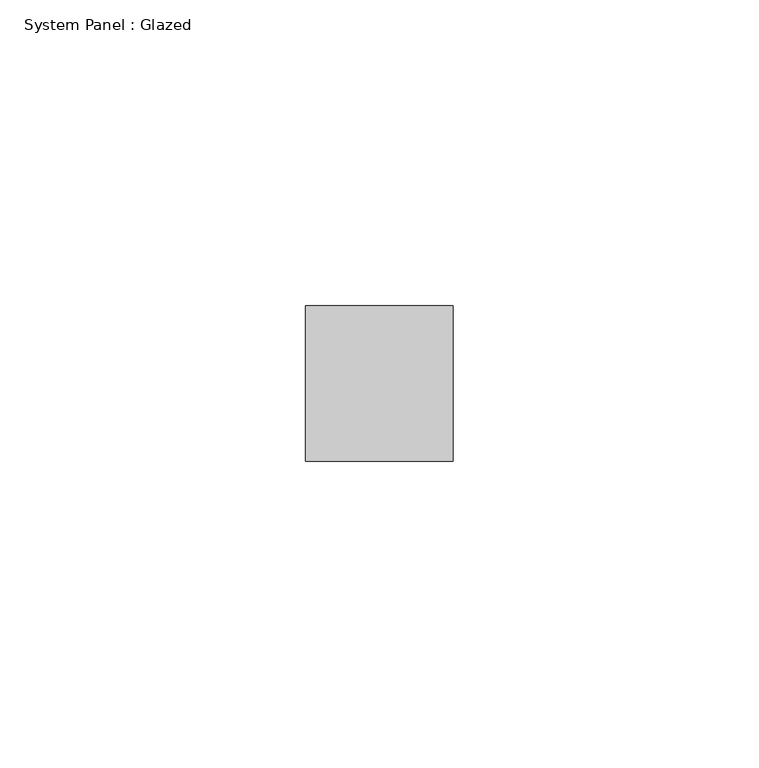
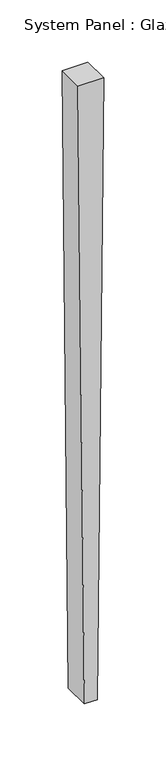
"""IFC4 building model written with IfcOpenShell, lengths in millimetres: plate geometry, System Panel : Glazed."""

import ifcopenshell
import ifcopenshell.guid

model = None  # the IFC model being written
_history = None  # IfcOwnerHistory: only IFC2X3 demands one
_inside = {}  # id of a spatial element -> (the spatial element, [elements in it])
_under = {}  # id of a project, library or spatial element -> (it, [spatial elements below it])
_declared = {}  # id of a project -> (the project, [libraries it declares])
_typed = {}  # id of a type object -> (the type object, [elements of that type])
_made_of = {}  # id of a material, layer set ... -> (it, [elements and type objects made of it])


def new_model(schema):
    """Start an empty IFC model of exactly this schema.

    Asked for "IFC4X3", IfcOpenShell would pick the latest addendum, in which some entities
    have other attributes; the version numbers below select the first issue.
    IFC2X3 requires an IfcOwnerHistory on every rooted entity: one is made here for all.
    """
    global model, _history
    if schema == "IFC4X3":
        model = ifcopenshell.file(schema_version=(4, 3, 0, 0))
    else:
        model = ifcopenshell.file(schema=schema)
    _inside.clear()
    _under.clear()
    _declared.clear()
    _typed.clear()
    _made_of.clear()
    _history = None
    if model.schema == "IFC2X3":
        org = make("IfcOrganization", Name="unknown")
        user = make(
            "IfcPersonAndOrganization",
            ThePerson=make("IfcPerson", FamilyName="unknown"),
            TheOrganization=org,
        )
        app = make(
            "IfcApplication",
            ApplicationDeveloper=org,
            Version="unknown",
            ApplicationFullName="unknown",
            ApplicationIdentifier="unknown",
        )
        _history = make(
            "IfcOwnerHistory",
            OwningUser=user,
            OwningApplication=app,
            ChangeAction="ADDED",
            CreationDate=0,
        )
    return model


def make(cls, **values):
    """One entity of the class cls with the attributes given. An attribute that is None is left unset."""
    return model.create_entity(
        cls, **{name: value for name, value in values.items() if value is not None}
    )


def rooted(cls, **values):
    """An entity with a GlobalId (a new one), such as an element, a storey or a relation."""
    return make(cls, GlobalId=ifcopenshell.guid.new(), OwnerHistory=_history, **values)


def si_unit(unit_type, name, prefix=None):
    """IfcSIUnit, for example si_unit("LENGTHUNIT", "METRE", prefix="MILLI")."""
    return make("IfcSIUnit", UnitType=unit_type, Prefix=prefix, Name=name)


def assignment(units):
    """IfcUnitAssignment: the units of a project."""
    return None if units is None else make("IfcUnitAssignment", Units=units)


def point(xyz):
    """IfcCartesianPoint."""
    return None if xyz is None else make("IfcCartesianPoint", Coordinates=xyz)


def direction(xyz):
    """IfcDirection."""
    return None if xyz is None else make("IfcDirection", DirectionRatios=xyz)


def frame(location, z_axis=None, x_axis=None):
    """IfcAxis2Placement3D, a coordinate frame: its origin and axes. An axis left out is left unset."""
    return make(
        "IfcAxis2Placement3D",
        Location=point(location),
        Axis=direction(z_axis),
        RefDirection=direction(x_axis),
    )


def origin():
    """The frame at (0, 0, 0) with its axes left unset."""
    return frame((0.0, 0.0, 0.0))


def place(relative_to, where):
    """IfcLocalPlacement: puts the frame where relative to a parent placement (None: the world)."""
    return make(
        "IfcLocalPlacement", PlacementRelTo=relative_to, RelativePlacement=where
    )


def context(
    kind, dimensions, precision=None, world=None, true_north=None, identifier=None
):
    """IfcGeometricRepresentationContext, for example the 3D "Model" context."""
    return make(
        "IfcGeometricRepresentationContext",
        ContextIdentifier=identifier,
        ContextType=kind,
        CoordinateSpaceDimension=dimensions,
        Precision=precision,
        WorldCoordinateSystem=world,
        TrueNorth=true_north,
    )


def project(units=None, contexts=None):
    """IfcProject with its units and contexts."""
    return rooted(
        "IfcProject",
        Name="project",
        RepresentationContexts=contexts,
        UnitsInContext=assignment(units),
    )


def spatial(cls, under=None, at=None, **own):
    """A site, building, storey or space (cls), placed at a placement, below another one or the project."""
    s = rooted(cls, ObjectPlacement=at, **own)
    if under is not None:
        _under.setdefault(under.id(), (under, []))[1].append(s)
    return s


def polyline(points):
    """IfcPolyline through the points."""
    return make("IfcPolyline", Points=[point(p) for p in points])


def outline(outer, holes=None, kind="AREA"):
    """IfcArbitraryClosedProfileDef: a profile drawn as a closed curve; with holes, ...WithVoids."""
    if holes is None:
        return make("IfcArbitraryClosedProfileDef", ProfileType=kind, OuterCurve=outer)
    return make(
        "IfcArbitraryProfileDefWithVoids",
        ProfileType=kind,
        OuterCurve=outer,
        InnerCurves=holes,
    )


def extrude(swept, where, along, depth):
    """IfcExtrudedAreaSolid: the profile swept, set in the frame where, extruded along a direction by depth."""
    return make(
        "IfcExtrudedAreaSolid",
        SweptArea=swept,
        Position=where,
        ExtrudedDirection=direction(along),
        Depth=depth,
    )


def shape(context_of_items, identifier, shape_type, items):
    """IfcShapeRepresentation: the items that make up one representation, for example the "Body"."""
    return make(
        "IfcShapeRepresentation",
        ContextOfItems=context_of_items,
        RepresentationIdentifier=identifier,
        RepresentationType=shape_type,
        Items=items,
    )


def source(mapping_origin, context_of_items, identifier, shape_type, items):
    """IfcRepresentationMap: a shape defined once, which mapped items show again and again."""
    return make(
        "IfcRepresentationMap",
        MappingOrigin=mapping_origin,
        MappedRepresentation=shape(context_of_items, identifier, shape_type, items),
    )


def transform(
    local_origin,
    x_axis=None,
    y_axis=None,
    z_axis=None,
    scale=None,
    scale2=None,
    scale3=None,
    uniform=True,
):
    """IfcCartesianTransformationOperator3D, or its non-uniform kind. x_axis, y_axis, z_axis: its Axis1, 2, 3."""
    if uniform:
        return make(
            "IfcCartesianTransformationOperator3D",
            Axis1=direction(x_axis),
            Axis2=direction(y_axis),
            LocalOrigin=point(local_origin),
            Scale=scale,
            Axis3=direction(z_axis),
        )
    return make(
        "IfcCartesianTransformationOperator3DnonUniform",
        Axis1=direction(x_axis),
        Axis2=direction(y_axis),
        LocalOrigin=point(local_origin),
        Scale=scale,
        Axis3=direction(z_axis),
        Scale2=scale2,
        Scale3=scale3,
    )


def mapped(mapping_source, mapping_target):
    """IfcMappedItem: shows the shape of a source again, moved by a transform."""
    return make(
        "IfcMappedItem", MappingSource=mapping_source, MappingTarget=mapping_target
    )


def made_of(thing, what):
    """Note that an element or type object is made of a material, layer set ...; save() writes the relation."""
    if what is not None:
        _made_of.setdefault(what.id(), (what, []))[1].append(thing)
    return thing


def element(
    cls,
    number,
    at=None,
    inside=None,
    cuts=None,
    type_object=None,
    material=None,
    context=None,
    identifier="Body",
    shape_type=None,
    held_by="IfcProductDefinitionShape",
    body=None,
    shapes=None,
    **own,
):
    """One element of the class cls, such as IfcWall. Its Tag is "e" and its number.

    at: its placement. inside: the storey or other place that contains it. cuts: it is an
    opening in that element (IfcRelVoidsElement). A single representation is given by context,
    identifier, shape_type and body (its items); several are given by shapes. held_by: the class
    of the entity that holds the representations. save() writes the other relations.
    """
    e = rooted(cls, Tag="e%d" % number, ObjectPlacement=at, **own)
    if body is not None:
        shapes = [shape(context, identifier, shape_type, body)]
    if shapes is not None:
        e.Representation = make(held_by, Representations=shapes)
    if inside is not None:
        _inside.setdefault(inside.id(), (inside, []))[1].append(e)
    if cuts is not None:
        rooted(
            "IfcRelVoidsElement", RelatingBuildingElement=cuts, RelatedOpeningElement=e
        )
    if type_object is not None:
        _typed.setdefault(type_object.id(), (type_object, []))[1].append(e)
    return made_of(e, material)


def aggregate(whole, parts):
    """IfcRelAggregates: a whole, such as a stair, and the parts it consists of."""
    return rooted("IfcRelAggregates", RelatingObject=whole, RelatedObjects=parts)


def save(model, path):
    """Write the relations noted so far, then the file.

    IfcRelAggregates (storeys below a building ...), IfcRelContainedInSpatialStructure (elements
    in a storey), IfcRelDefinesByType, IfcRelAssociatesMaterial and IfcRelDeclares: one each for
    every whole, place, type object, material and project.
    """
    for whole, parts in _under.values():
        aggregate(whole, parts)
    for where, things in _inside.values():
        rooted(
            "IfcRelContainedInSpatialStructure",
            RelatedElements=things,
            RelatingStructure=where,
        )
    for kind, things in _typed.values():
        rooted("IfcRelDefinesByType", RelatedObjects=things, RelatingType=kind)
    for what, things in _made_of.values():
        rooted("IfcRelAssociatesMaterial", RelatedObjects=things, RelatingMaterial=what)
    for by, libraries in _declared.values():
        rooted("IfcRelDeclares", RelatingContext=by, RelatedDefinitions=libraries)
    model.write(path)


def system_panel_glazed_541d1e19(model_context):
    return source(origin(), model_context, "Body", "SweptSolid", [
        extrude(outline(polyline([(0.0, -6.0448817), (0.0, 6.0448817), (609.5706248, 12.0293146), (609.5706248, -12.0293146), (0.0, -6.0448817)])), frame((0.0, -44.45, 0.0), z_axis=(0.0, 1.0, 0.0), x_axis=(0.0, 0.0, 1.0)), (0.0, 0.0, 1.0), 25.4),
    ])


if __name__ == "__main__":
    model = new_model("IFC4")
    model_context = context("Model", 3, world=origin())
    ifc_project = project(units=[si_unit("LENGTHUNIT", "METRE", prefix="MILLI")], contexts=[model_context])
    site = spatial("IfcSite", under=ifc_project)
    building = spatial("IfcBuilding", under=site)
    placement = place(None, origin())
    system_panel_glazed_shape = system_panel_glazed_541d1e19(model_context)
    element("IfcPlate", 1, ObjectType="System Panel : Glazed", at=placement, inside=building, context=model_context, shape_type="MappedRepresentation", body=[
        mapped(system_panel_glazed_shape, transform((0.0, 0.0, 0.0), x_axis=(1.0, 0.0, 0.0), y_axis=(0.0, 1.0, 0.0), z_axis=(0.0, 0.0, 1.0))),
    ])
    save(model, "model.ifc")
